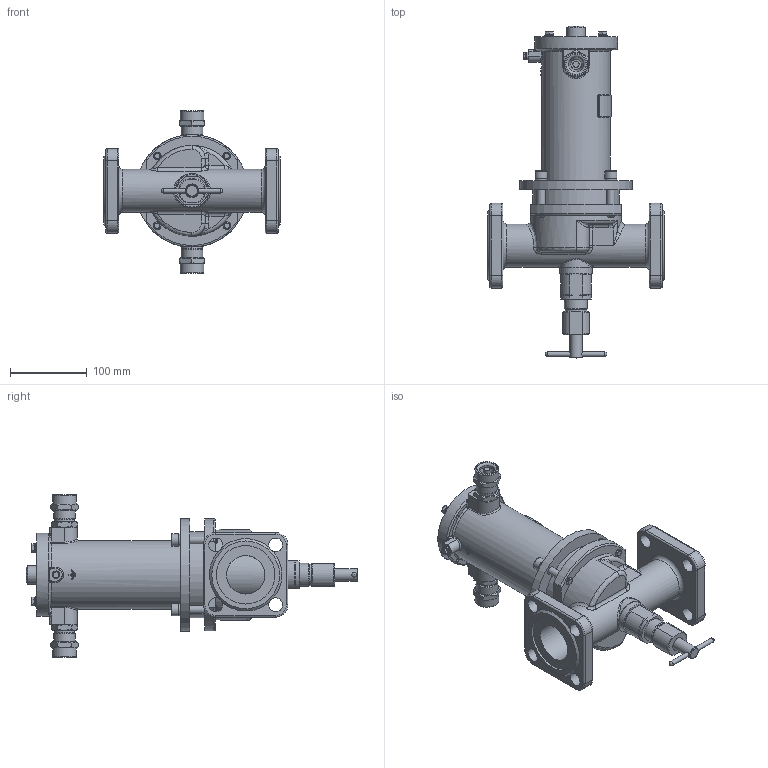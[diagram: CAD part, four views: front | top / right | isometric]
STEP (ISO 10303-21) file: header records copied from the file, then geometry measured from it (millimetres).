
FILE_DESCRIPTION(('STEP AP203'), '1');
FILE_NAME('ÑÅÍÑ DN50PN25-Â-ÍÎ-ÑÂ.stp', '2018-09-19T08:51:56', ('Îðëîâ Å.Â.'), ('ÎÎÎ ÍÏÏ Ñåíñîð'), 'ASCON STEP Converter 1.3', 'Kompas 3D', '');
FILE_SCHEMA(('CONFIG_CONTROL_DESIGN','SUPPORT_RESOURCE_SCHEMA'));
Length unit declared in the file: millimetre
Products named in the file (1): 82
Bounding box: 230 x 431.5 x 211 mm (x, y, z)
Volume: 1540728.2 mm3; surface area: 409192 mm2
Topology: 2 solids, 19 shells, 1980 faces, 5253 edges, 3391 vertices
Faces by surface type: cylinder 1010, plane 726, cone 127, torus 50, bspline 47, extrusion 16, sphere 4
Full cylindrical faces by diameter (mm): 3.5 x2, 4.134 x1, 4.917 x4, 5 x1, 6 x10, 6.5 x4, 8 x8, 10 x9, 11 x4, 12 x4, 13 x2, 16 x6, 17 x2, 18 x9, 20 x4, 20.9 x1, 22 x2, 22.376 x2, 23 x1, 23.5 x2, 24 x3, 24.5 x2, 26 x4, 26.376 x2, 27.8 x1, 28 x3, 28.5 x2, 30 x2, 31 x2, 42 x1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
Entity records: 77103 total; most frequent: CARTESIAN_POINT 26825, DIRECTION 10913, ORIENTED_EDGE 10448, EDGE_CURVE 5224, AXIS2_PLACEMENT_3D 4193, VERTEX_POINT 3391, VECTOR 2527, LINE 2511
